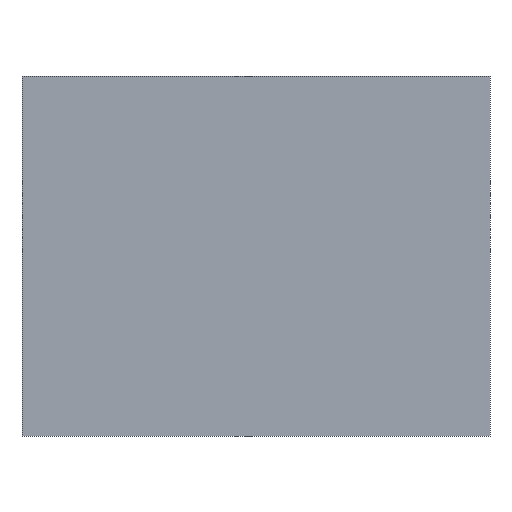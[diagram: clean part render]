
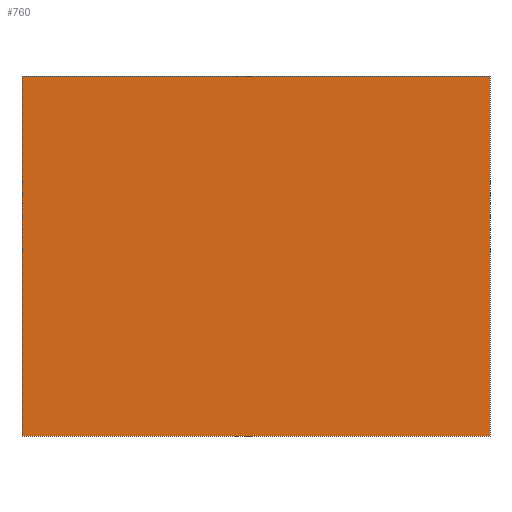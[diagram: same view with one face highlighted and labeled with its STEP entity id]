
A CAD part, front view. The second image highlights one B-rep face of the part: STEP entity #760.
In plain terms, the highlighted planar face has unit normal (0, -1, 0).
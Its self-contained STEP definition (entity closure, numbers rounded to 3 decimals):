
#26 = FACE_OUTER_BOUND ( 'NONE', #683, .T. ) ;
#29 = ORIENTED_EDGE ( 'NONE', *, *, #195, .T. ) ;
#43 = CARTESIAN_POINT ( 'NONE',  ( 65., -25., -25. ) ) ;
#55 = DIRECTION ( 'NONE',  ( 0., 0., -1. ) ) ;
#157 = VERTEX_POINT ( 'NONE', #712 ) ;
#166 = CARTESIAN_POINT ( 'NONE',  ( 65., -25., -25. ) ) ;
#195 = EDGE_CURVE ( 'NONE', #226, #552, #275, .T. ) ;
#226 = VERTEX_POINT ( 'NONE', #393 ) ;
#245 = DIRECTION ( 'NONE',  ( 0., 0., 1. ) ) ;
#255 = EDGE_CURVE ( 'NONE', #415, #157, #792, .T. ) ;
#275 = LINE ( 'NONE', #555, #717 ) ;
#285 = ORIENTED_EDGE ( 'NONE', *, *, #255, .F. ) ;
#300 = VECTOR ( 'NONE', #55, 1000. ) ;
#308 = DIRECTION ( 'NONE',  ( 0., 1., 0. ) ) ;
#336 = EDGE_CURVE ( 'NONE', #552, #157, #340, .T. ) ;
#340 = LINE ( 'NONE', #679, #300 ) ;
#380 = CARTESIAN_POINT ( 'NONE',  ( 65., -25., -25. ) ) ;
#393 = CARTESIAN_POINT ( 'NONE',  ( 65., -25., 25. ) ) ;
#415 = VERTEX_POINT ( 'NONE', #647 ) ;
#447 = DIRECTION ( 'NONE',  ( -1., 0., 0. ) ) ;
#449 = ORIENTED_EDGE ( 'NONE', *, *, #336, .T. ) ;
#455 = VECTOR ( 'NONE', #447, 1000. ) ;
#461 = PLANE ( 'NONE',  #873 ) ;
#483 = VECTOR ( 'NONE', #739, 1000. ) ;
#552 = VERTEX_POINT ( 'NONE', #867 ) ;
#555 = CARTESIAN_POINT ( 'NONE',  ( 65., -25., 25. ) ) ;
#623 = ORIENTED_EDGE ( 'NONE', *, *, #817, .F. ) ;
#647 = CARTESIAN_POINT ( 'NONE',  ( 65., -25., -25. ) ) ;
#679 = CARTESIAN_POINT ( 'NONE',  ( 0., -25., -25. ) ) ;
#683 = EDGE_LOOP ( 'NONE', ( #449, #285, #623, #29 ) ) ;
#712 = CARTESIAN_POINT ( 'NONE',  ( 0., -25., -25. ) ) ;
#717 = VECTOR ( 'NONE', #768, 1000. ) ;
#729 = LINE ( 'NONE', #380, #483 ) ;
#739 = DIRECTION ( 'NONE',  ( 0., 0., -1. ) ) ;
#760 = ADVANCED_FACE ( 'NONE', ( #26 ), #461, .F. ) ;
#768 = DIRECTION ( 'NONE',  ( -1., 0., 0. ) ) ;
#792 = LINE ( 'NONE', #166, #455 ) ;
#817 = EDGE_CURVE ( 'NONE', #226, #415, #729, .T. ) ;
#867 = CARTESIAN_POINT ( 'NONE',  ( 0., -25., 25. ) ) ;
#873 = AXIS2_PLACEMENT_3D ( 'NONE', #43, #308, #245 ) ;
